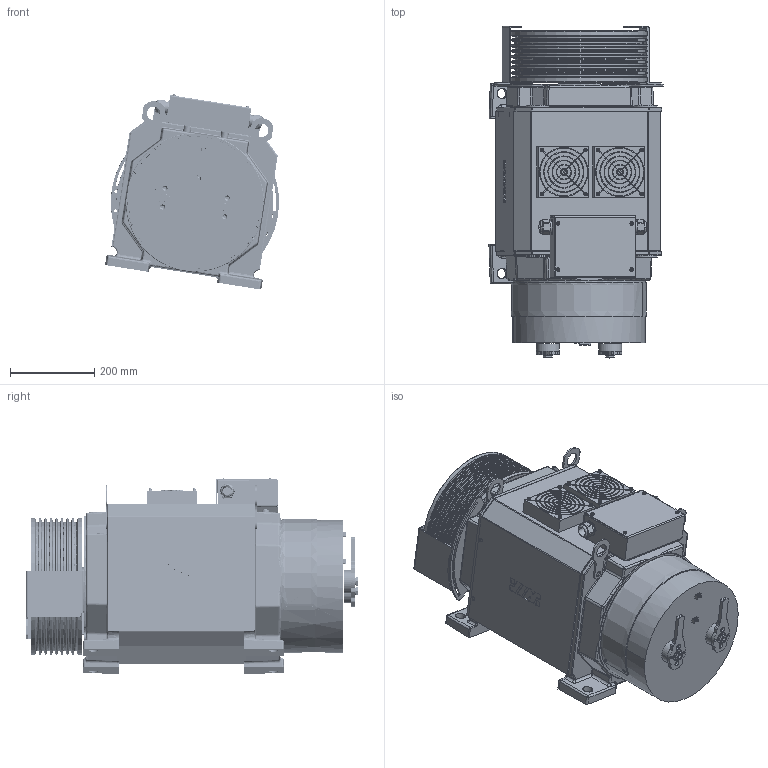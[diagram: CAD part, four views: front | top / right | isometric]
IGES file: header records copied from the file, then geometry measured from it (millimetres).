
Start section: START RECORD GO HERE.
Global section: file name: 1403-08-27-ASM ALL BM380_AllCATPart.igs; native system: DASSAULT SYSTEMES CATIA Version 5-6 Release 2017 - www.3ds.com; preprocessor: V5-6R2017_5.27.2.0.03-10-2017.22.00; author: s_fazeli; organization: BEHRANLIFT; date: 20241117.174354; units: millimetre
Bounding box: 413.86 x 789.19 x 464.09 mm (x, y, z)
Surface area: 1922832.1 mm2 (no closed solid volume)
Topology: 0 solids, 0 shells, 2770 faces, 14582 edges, 14478 vertices
Faces by surface type: revolution 1537, plane 844, bspline 303, extrusion 86
